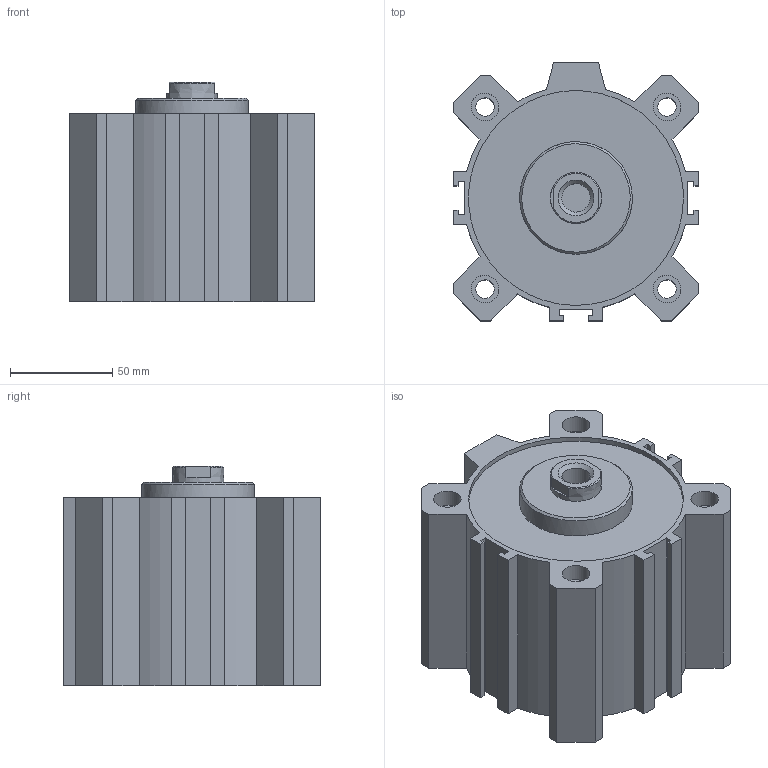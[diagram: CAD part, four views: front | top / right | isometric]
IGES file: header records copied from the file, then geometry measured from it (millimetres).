
Global section: file name: 1511_100_0040; native system: Autodesk Inventor 2014; preprocessor: unknown; author: A. Manieri; date: 20160824.162605; units: millimetre
Bounding box: 120 x 126 x 107.5 mm (x, y, z)
Volume: 773163.3 mm3; surface area: 158556.7 mm2
Topology: 2 solids, 2 shells, 119 faces, 307 edges, 210 vertices
Faces by surface type: bspline 119
